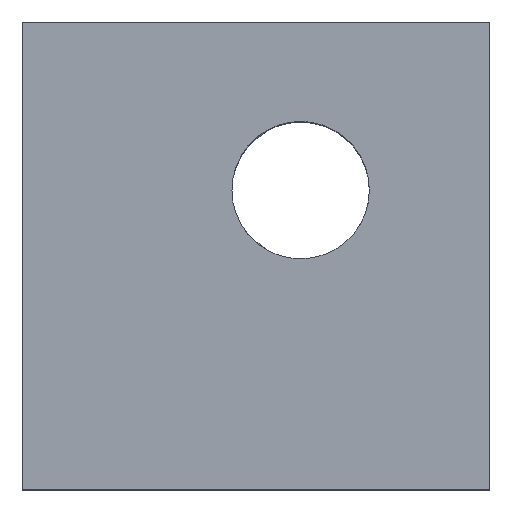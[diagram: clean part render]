
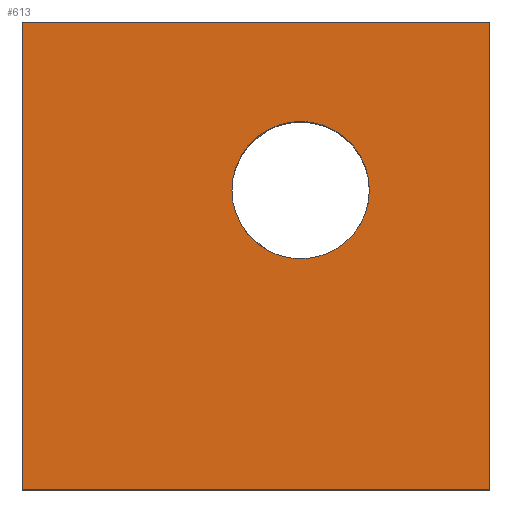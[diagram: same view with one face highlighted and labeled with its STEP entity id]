
A CAD part, top view. The second image highlights one B-rep face of the part: STEP entity #613.
In plain terms, the highlighted planar face has unit normal (0, 0, 1).
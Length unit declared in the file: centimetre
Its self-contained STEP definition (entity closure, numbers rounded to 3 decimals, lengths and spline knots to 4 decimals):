
#17 = DIRECTION ( 'NONE',  ( 0., 0., 1. ) ) ;
#30 = CARTESIAN_POINT ( 'NONE',  ( 1000., 1000., 1000. ) ) ;
#33 = ORIENTED_EDGE ( 'NONE', *, *, #502, .T. ) ;
#50 = LINE ( 'NONE', #582, #121 ) ;
#51 = VECTOR ( 'NONE', #961, 100. ) ;
#56 = VERTEX_POINT ( 'NONE', #685 ) ;
#59 = EDGE_LOOP ( 'NONE', ( #351, #521, #33, #988 ) ) ;
#67 = CARTESIAN_POINT ( 'NONE',  ( 0., 0., 1000. ) ) ;
#68 = ORIENTED_EDGE ( 'NONE', *, *, #597, .F. ) ;
#85 = CIRCLE ( 'NONE', #596, 146.9624 ) ;
#121 = VECTOR ( 'NONE', #285, 100. ) ;
#162 = CARTESIAN_POINT ( 'NONE',  ( 0., 1000., 1000. ) ) ;
#166 = AXIS2_PLACEMENT_3D ( 'NONE', #422, #731, #279 ) ;
#176 = VERTEX_POINT ( 'NONE', #867 ) ;
#211 = CARTESIAN_POINT ( 'NONE',  ( 448.5048, 640.3994, 1000. ) ) ;
#266 = LINE ( 'NONE', #490, #51 ) ;
#279 = DIRECTION ( 'NONE',  ( 1., 0., 0. ) ) ;
#284 = FACE_OUTER_BOUND ( 'NONE', #59, .T. ) ;
#285 = DIRECTION ( 'NONE',  ( 1., 0., 0. ) ) ;
#338 = CIRCLE ( 'NONE', #166, 146.9624 ) ;
#351 = ORIENTED_EDGE ( 'NONE', *, *, #832, .T. ) ;
#352 = CARTESIAN_POINT ( 'NONE',  ( 742.4296, 640.3994, 1000. ) ) ;
#395 = CARTESIAN_POINT ( 'NONE',  ( 0., 1000., 1000. ) ) ;
#422 = CARTESIAN_POINT ( 'NONE',  ( 595.4672, 640.3994, 1000. ) ) ;
#426 = EDGE_CURVE ( 'NONE', #624, #56, #50, .T. ) ;
#430 = ORIENTED_EDGE ( 'NONE', *, *, #948, .F. ) ;
#434 = EDGE_LOOP ( 'NONE', ( #68, #430 ) ) ;
#458 = DIRECTION ( 'NONE',  ( 0., 0., 1. ) ) ;
#476 = DIRECTION ( 'NONE',  ( -1., 0., 0. ) ) ;
#483 = AXIS2_PLACEMENT_3D ( 'NONE', #898, #458, #614 ) ;
#490 = CARTESIAN_POINT ( 'NONE',  ( 1000., 1000., 1000. ) ) ;
#502 = EDGE_CURVE ( 'NONE', #56, #909, #266, .T. ) ;
#521 = ORIENTED_EDGE ( 'NONE', *, *, #426, .T. ) ;
#570 = VERTEX_POINT ( 'NONE', #352 ) ;
#582 = CARTESIAN_POINT ( 'NONE',  ( 0., 0., 1000. ) ) ;
#585 = FACE_BOUND ( 'NONE', #434, .T. ) ;
#590 = PLANE ( 'NONE',  #483 ) ;
#596 = AXIS2_PLACEMENT_3D ( 'NONE', #710, #17, #949 ) ;
#597 = EDGE_CURVE ( 'NONE', #570, #671, #338, .T. ) ;
#613 = ADVANCED_FACE ( 'NONE', ( #585, #284 ), #590, .T. ) ;
#614 = DIRECTION ( 'NONE',  ( 1., 0., 0. ) ) ;
#624 = VERTEX_POINT ( 'NONE', #67 ) ;
#626 = LINE ( 'NONE', #162, #903 ) ;
#671 = VERTEX_POINT ( 'NONE', #211 ) ;
#685 = CARTESIAN_POINT ( 'NONE',  ( 1000., 0., 1000. ) ) ;
#710 = CARTESIAN_POINT ( 'NONE',  ( 595.4672, 640.3994, 1000. ) ) ;
#731 = DIRECTION ( 'NONE',  ( 0., 0., 1. ) ) ;
#782 = DIRECTION ( 'NONE',  ( 0., -1., 0. ) ) ;
#832 = EDGE_CURVE ( 'NONE', #176, #624, #626, .T. ) ;
#850 = EDGE_CURVE ( 'NONE', #909, #176, #941, .T. ) ;
#867 = CARTESIAN_POINT ( 'NONE',  ( 0., 1000., 1000. ) ) ;
#898 = CARTESIAN_POINT ( 'NONE',  ( 0., 0., 1000. ) ) ;
#903 = VECTOR ( 'NONE', #782, 100. ) ;
#909 = VERTEX_POINT ( 'NONE', #30 ) ;
#941 = LINE ( 'NONE', #395, #964 ) ;
#948 = EDGE_CURVE ( 'NONE', #671, #570, #85, .T. ) ;
#949 = DIRECTION ( 'NONE',  ( 1., 0., 0. ) ) ;
#961 = DIRECTION ( 'NONE',  ( 0., 1., 0. ) ) ;
#964 = VECTOR ( 'NONE', #476, 100. ) ;
#988 = ORIENTED_EDGE ( 'NONE', *, *, #850, .T. ) ;
